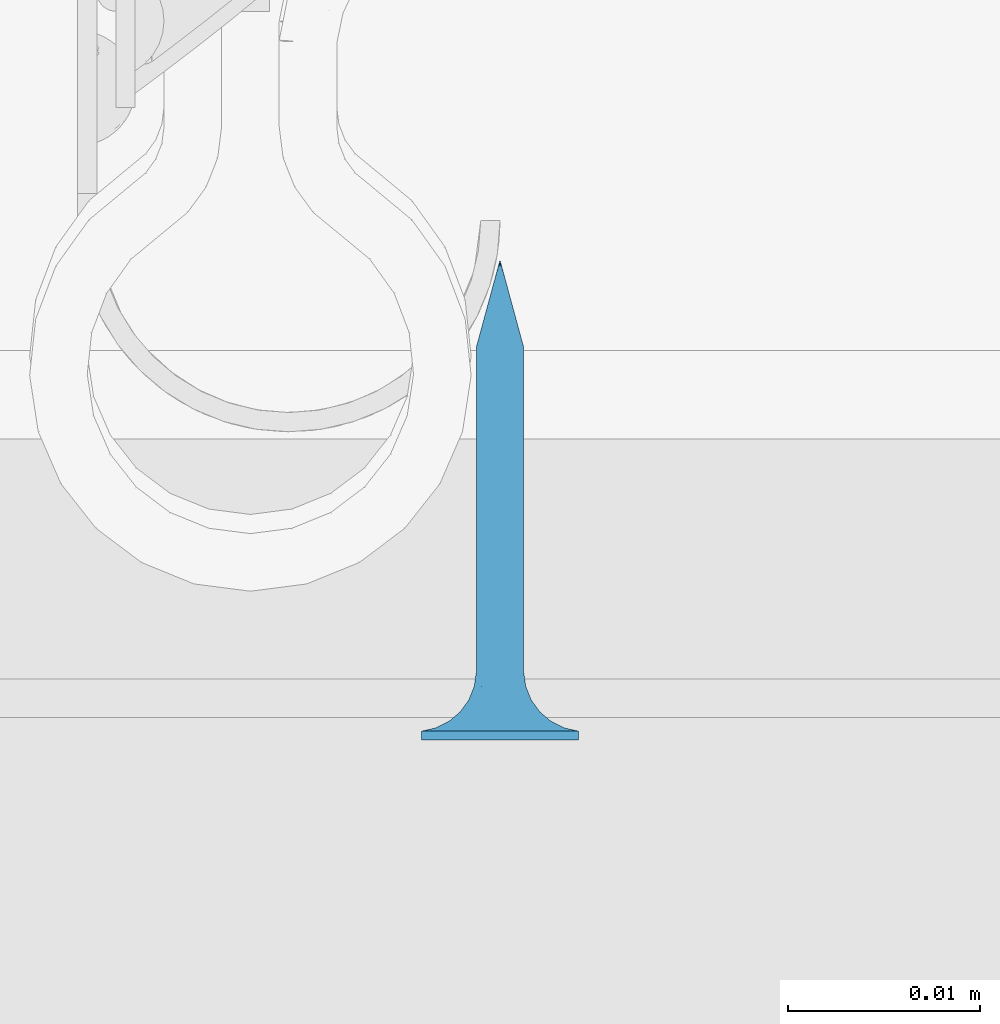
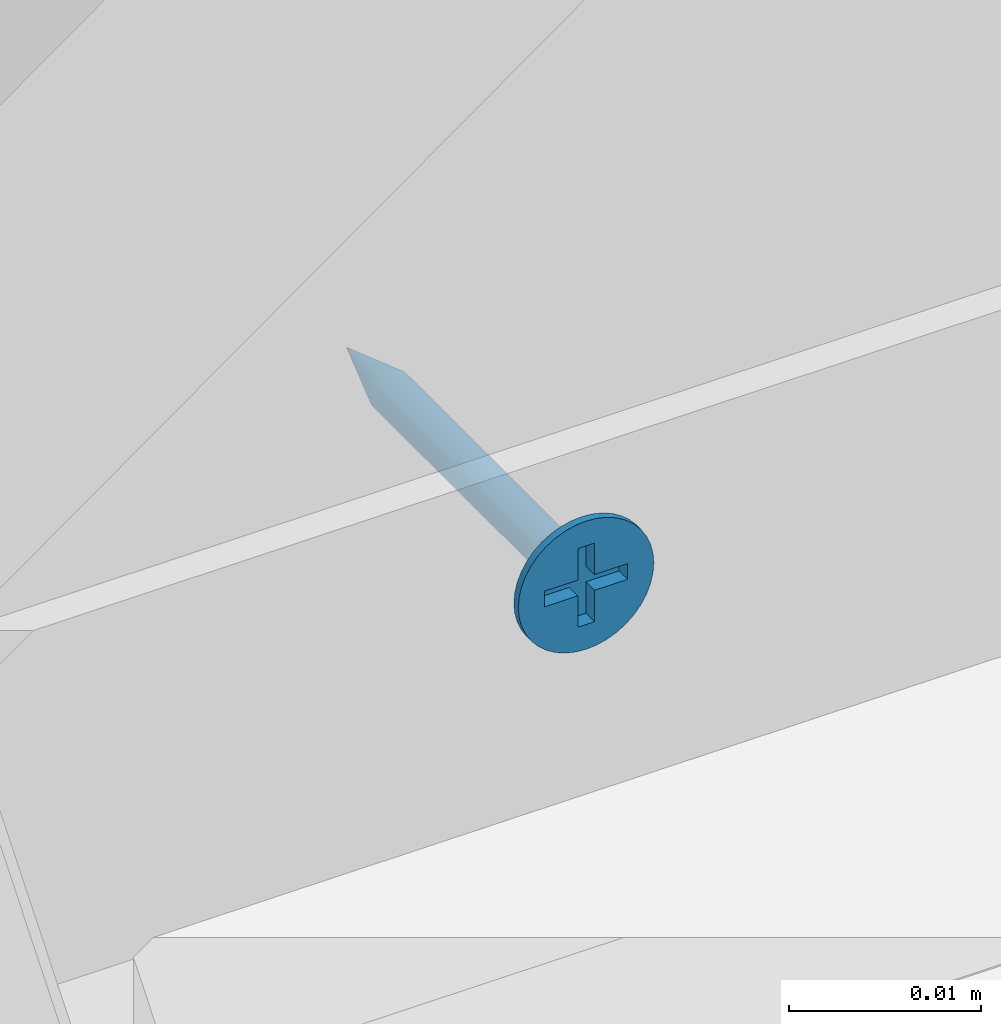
# One storey, part 36 of 79: 1 slab.
"""IFC2X3 building model written with IfcOpenShell, lengths in millimetres."""

from ifc_helpers import new_model, entity, si_unit, converted_unit, direction, frame, origin, origin_with_axes, place, context, project, spatial, faceted_brep, element, save


model = new_model("IFC2X3")

# Units and contexts
model_context = context("Model", 3, precision=1e-05, world=origin(), true_north=direction((0.0, 1.0, 0.0)))
ifc_project = project(units=[si_unit("LENGTHUNIT", "METRE", prefix="MILLI"), si_unit("AREAUNIT", "SQUARE_METRE"), si_unit("VOLUMEUNIT", "CUBIC_METRE"), converted_unit("PLANEANGLEUNIT", "DEGREE", entity("IfcPlaneAngleMeasure", 0.01745), si_unit("PLANEANGLEUNIT", "RADIAN"), dimensions=[0, 0, 0, 0, 0, 0, 0]), si_unit("SOLIDANGLEUNIT", "STERADIAN"), si_unit("MASSUNIT", "GRAM"), si_unit("TIMEUNIT", "SECOND"), si_unit("THERMODYNAMICTEMPERATUREUNIT", "DEGREE_CELSIUS"), si_unit("LUMINOUSINTENSITYUNIT", "LUMEN")], contexts=[model_context])

# Site, building, storey
site_placement = place(None, origin_with_axes())
site = spatial("IfcSite", under=ifc_project, at=site_placement, Name="Default Site", CompositionType="ELEMENT")
building_placement = place(site_placement, origin_with_axes())
building = spatial("IfcBuilding", under=site, at=building_placement, Name="Default Building", CompositionType="ELEMENT")
storey_placement = place(building_placement, origin_with_axes())
storey = spatial("IfcBuildingStorey", under=building, at=storey_placement, Name="Default Building Storey", CompositionType="ELEMENT", Elevation=0.0)

# Slab
slab_placement = place(storey_placement, frame((3330.499834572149, 5017.241866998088, 440.6779499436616), z_axis=(0.0, 0.0, 1.0), x_axis=(1.0, 0.0, 0.0)))
element("IfcSlab", 1, at=slab_placement, inside=storey, Name="Łącznik mechaniczny", context=model_context, shape_type="Brep", body=[
    faceted_brep([(-136.5890362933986, -3387.475459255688, 554.9298199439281), (-136.4636235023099, -3387.475459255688, 555.0766594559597), (-136.4636235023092, -3370.55807436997, 555.0766594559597), (-136.5890362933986, -3370.55807436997, 554.9298199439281), (-136.9005263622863, -3387.475459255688, 554.7035091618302), (-136.9005263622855, -3370.55807436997, 554.7035091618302), (-137.0789337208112, -3370.55807436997, 554.6296104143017), (-137.078933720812, -3387.475459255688, 554.6296104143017), (-137.2667048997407, -3387.475459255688, 554.5845305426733), (-137.2667048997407, -3370.55807436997, 554.5845305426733), (-137.4592163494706, -3370.55807436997, 554.5693795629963), (-137.4592163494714, -3387.475459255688, 554.5693795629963), (-136.4636235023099, -3387.475459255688, 556.5233405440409), (-136.5890362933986, -3387.475459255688, 556.6701800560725), (-136.5890362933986, -3370.55807436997, 556.6701800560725), (-136.4636235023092, -3370.55807436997, 556.5233405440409), (-138.4548091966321, -3370.55807436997, 556.5233405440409), (-138.3293964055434, -3370.55807436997, 556.6701800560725), (-138.3293964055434, -3387.475459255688, 556.6701800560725), (-138.4548091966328, -3387.475459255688, 556.5233405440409), (-136.7358758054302, -3370.55807436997, 554.8044071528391), (-136.7358758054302, -3387.475459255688, 554.8044071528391), (-138.1825568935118, -3387.475459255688, 556.7955928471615), (-138.1825568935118, -3370.55807436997, 556.7955928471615), (-138.0179063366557, -3370.55807436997, 556.8964908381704), (-138.0179063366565, -3387.475459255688, 556.8964908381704), (-136.3627255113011, -3387.475459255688, 556.3586899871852), (-136.3627255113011, -3370.55807436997, 556.3586899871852), (-136.7358758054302, -3387.475459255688, 556.7955928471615), (-136.7358758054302, -3370.55807436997, 556.7955928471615), (-137.6517277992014, -3387.475459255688, 554.5845305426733), (-137.6517277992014, -3370.55807436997, 554.5845305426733), (-137.83949897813, -3370.55807436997, 554.6296104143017), (-137.8394989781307, -3387.475459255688, 554.6296104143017), (-136.3627255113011, -3387.475459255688, 555.241310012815), (-136.3627255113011, -3370.55807436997, 555.241310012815), (-138.0179063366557, -3370.55807436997, 554.7035091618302), (-138.0179063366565, -3387.475459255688, 554.7035091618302), (-138.6746858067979, -3370.55807436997, 555.6074885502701), (-138.6898367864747, -3370.55807436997, 555.8000000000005), (-138.6898367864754, -3387.475459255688, 555.8000000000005), (-138.6746858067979, -3387.475459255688, 555.6074885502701), (-136.2285959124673, -3387.475459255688, 555.8000000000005), (-136.2437468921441, -3387.475459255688, 555.9925114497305), (-136.2437468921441, -3370.55807436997, 555.9925114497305), (-136.2285959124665, -3370.55807436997, 555.8000000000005), (-138.3293964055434, -3370.55807436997, 554.9298199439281), (-138.4548091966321, -3370.55807436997, 555.0766594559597), (-138.4548091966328, -3387.475459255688, 555.0766594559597), (-138.3293964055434, -3387.475459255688, 554.9298199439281), (-137.83949897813, -3370.55807436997, 556.9703895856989), (-137.8394989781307, -3387.475459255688, 556.9703895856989), (-138.1825568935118, -3370.55807436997, 554.8044071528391), (-138.1825568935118, -3387.475459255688, 554.8044071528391), (-138.5557071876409, -3370.55807436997, 555.241310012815), (-138.6296059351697, -3370.55807436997, 555.4197173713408), (-138.6296059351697, -3387.475459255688, 555.4197173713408), (-138.5557071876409, -3387.475459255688, 555.241310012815), (-136.2888267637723, -3387.475459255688, 555.4197173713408), (-136.2437468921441, -3387.475459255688, 555.6074885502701), (-136.2437468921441, -3370.55807436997, 555.6074885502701), (-136.2888267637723, -3370.55807436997, 555.4197173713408), (-136.2888267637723, -3387.475459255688, 556.1802826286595), (-136.2888267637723, -3370.55807436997, 556.1802826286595), (-137.4592163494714, -3387.475459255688, 557.0306204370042), (-137.4592163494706, -3370.55807436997, 557.0306204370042), (-137.2667048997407, -3370.55807436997, 557.0154694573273), (-137.2667048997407, -3387.475459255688, 557.0154694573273), (-137.0789337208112, -3370.55807436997, 556.9703895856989), (-137.078933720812, -3387.475459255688, 556.9703895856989), (-137.6517277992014, -3387.475459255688, 557.0154694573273), (-137.6517277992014, -3370.55807436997, 557.0154694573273), (-136.9005263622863, -3387.475459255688, 556.8964908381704), (-136.9005263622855, -3370.55807436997, 556.8964908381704), (-138.6296059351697, -3370.55807436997, 556.1802826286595), (-138.5557071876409, -3370.55807436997, 556.3586899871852), (-138.5557071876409, -3387.475459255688, 556.3586899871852), (-138.6296059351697, -3387.475459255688, 556.1802826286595), (-138.6746858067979, -3370.55807436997, 555.9925114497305), (-138.6746858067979, -3387.475459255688, 555.9925114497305), (-141.5377463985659, -3390.556721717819, 555.8000000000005), (-141.5377463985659, -3391.020944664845, 555.8000000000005), (-141.4875329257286, -3391.020944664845, 555.1619773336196), (-141.4875329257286, -3390.556721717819, 555.1619773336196), (-141.338128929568, -3391.020944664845, 554.539664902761), (-141.338128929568, -3390.556721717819, 554.539664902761), (-141.0932132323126, -3391.020944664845, 553.948386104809), (-141.0932132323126, -3390.556721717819, 553.948386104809), (-140.7588164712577, -3391.020944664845, 553.4027001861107), (-140.7588164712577, -3390.556721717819, 553.4027001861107), (-140.3431726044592, -3391.020944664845, 552.9160437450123), (-140.4541727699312, -3390.556721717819, 553.0314907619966), (-140.1080097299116, -3390.556721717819, 552.6986614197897), (-139.8565161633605, -3391.020944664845, 552.5003998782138), (-139.7251262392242, -3390.556721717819, 552.4088262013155), (-139.3108302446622, -3391.020944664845, 552.1660031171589), (-139.3108302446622, -3390.556721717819, 552.1660031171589), (-138.8708651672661, -3390.556721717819, 551.9735584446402), (-138.7195514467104, -3391.020944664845, 551.9210874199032), (-138.4113302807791, -3390.556721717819, 551.8341600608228), (-137.9385961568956, -3390.556721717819, 551.7497404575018), (-138.0972390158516, -3391.020944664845, 551.7716834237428), (-137.4592163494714, -3391.020944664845, 551.7214699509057), (-137.4592163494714, -3390.556721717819, 551.7214699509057), (-136.8211936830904, -3391.020944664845, 551.7716834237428), (-136.8211936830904, -3390.556721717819, 551.7716834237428), (-136.1988812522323, -3391.020944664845, 551.9210874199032), (-136.1988812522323, -3390.556721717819, 551.9210874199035), (-135.6076024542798, -3391.020944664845, 552.1660031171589), (-135.6076024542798, -3390.556721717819, 552.1660031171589), (-135.0619165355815, -3391.020944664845, 552.5003998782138), (-135.0619165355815, -3390.556721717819, 552.5003998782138), (-134.5752600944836, -3391.020944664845, 552.9160437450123), (-134.5752600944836, -3390.556721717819, 552.9160437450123), (-134.1596162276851, -3391.020944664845, 553.4027001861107), (-134.1596162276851, -3390.556721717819, 553.4027001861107), (-133.8252194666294, -3391.020944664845, 553.948386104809), (-133.8252194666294, -3390.556721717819, 553.948386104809), (-133.580303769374, -3391.020944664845, 554.539664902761), (-133.580303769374, -3390.556721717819, 554.539664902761), (-133.4308997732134, -3391.020944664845, 556.438022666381), (-133.4308997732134, -3390.556721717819, 556.438022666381), (-133.3806863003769, -3390.556721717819, 555.8000000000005), (-133.3806863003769, -3391.020944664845, 555.8000000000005), (-133.4308997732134, -3390.556721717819, 555.1619773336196), (-133.4308997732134, -3391.020944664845, 555.1619773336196), (-133.580303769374, -3391.020944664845, 557.0603350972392), (-133.580303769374, -3390.556721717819, 557.0603350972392), (-133.8252194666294, -3391.020944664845, 557.6516138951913), (-133.8252194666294, -3390.556721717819, 557.6516138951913), (-134.1596162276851, -3391.020944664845, 558.1972998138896), (-134.1596162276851, -3390.556721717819, 558.1972998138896), (-134.5752600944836, -3391.020944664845, 558.683956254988), (-134.5752600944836, -3390.556721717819, 558.683956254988), (-135.0619165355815, -3391.020944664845, 559.0996001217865), (-135.0619165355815, -3390.556721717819, 559.0996001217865), (-135.6076024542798, -3391.020944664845, 559.4339968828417), (-135.6076024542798, -3390.556721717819, 559.4339968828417), (-136.1988812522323, -3391.020944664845, 559.6789125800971), (-136.1988812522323, -3390.556721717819, 559.6789125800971), (-136.8211936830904, -3391.020944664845, 559.8283165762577), (-136.8211936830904, -3390.556721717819, 559.8283165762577), (-137.4592163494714, -3391.020944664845, 559.8785300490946), (-137.4592163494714, -3390.556721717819, 559.8785300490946), (-138.0972390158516, -3391.020944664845, 559.8283165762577), (-138.0972390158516, -3390.556721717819, 559.8283165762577), (-138.7195514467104, -3391.020944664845, 559.6789125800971), (-138.7195514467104, -3390.556721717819, 559.6789125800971), (-139.3108302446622, -3391.020944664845, 559.4339968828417), (-139.3108302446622, -3390.556721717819, 559.4339968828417), (-139.8565161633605, -3391.020944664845, 559.0996001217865), (-139.8565161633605, -3390.556721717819, 559.0996001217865), (-140.3431726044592, -3391.020944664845, 558.683956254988), (-140.3431726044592, -3390.556721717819, 558.683956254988), (-140.7588164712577, -3391.020944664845, 558.1972998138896), (-140.7588164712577, -3390.556721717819, 558.1972998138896), (-141.0932132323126, -3391.020944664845, 557.6516138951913), (-141.0932132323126, -3390.556721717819, 557.6516138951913), (-141.338128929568, -3391.020944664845, 557.0603350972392), (-141.338128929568, -3390.556721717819, 557.0603350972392), (-141.4875329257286, -3391.020944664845, 556.438022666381), (-141.4875329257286, -3390.556721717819, 556.438022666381), (-137.8060615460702, -3388.229732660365, 554.5055560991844), (-137.4592163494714, -3388.229732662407, 554.4598930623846), (-138.1292698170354, -3388.229732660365, 554.6394333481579), (-138.4068150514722, -3388.229732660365, 554.8524012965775), (-138.6197830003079, -3388.229732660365, 555.1299465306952), (-138.7536602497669, -3388.229732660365, 555.4531548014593), (-138.7993232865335, -3388.229732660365, 555.7999999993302), (-138.7536602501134, -3388.229732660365, 556.1468451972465), (-138.6197830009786, -3388.229732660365, 556.4700534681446), (-138.4068150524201, -3388.229732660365, 556.7475987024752), (-138.1292698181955, -3388.229732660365, 556.9605666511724), (-137.8060615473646, -3388.229732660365, 557.0944439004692), (-137.4592163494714, -3388.229732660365, 557.1401069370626), (-137.1123711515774, -3388.229732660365, 557.0944439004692), (-136.7891628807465, -3388.229732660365, 556.9605666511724), (-136.5116176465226, -3388.229732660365, 556.7475987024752), (-136.2986496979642, -3388.229732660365, 556.4700534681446), (-136.1647724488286, -3388.229732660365, 556.1468451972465), (-136.1191094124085, -3388.229732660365, 555.7999999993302), (-136.1647724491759, -3388.229732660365, 555.4531548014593), (-136.2986496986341, -3388.229732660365, 555.1299465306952), (-136.5116176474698, -3388.229732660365, 554.8524012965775), (-136.7891628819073, -3388.229732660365, 554.6394333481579), (-137.1123711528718, -3388.229732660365, 554.5055560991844), (-137.4592163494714, -3388.936142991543, 554.1737111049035), (-137.8801308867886, -3388.936142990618, 554.2291255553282), (-138.2723607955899, -3388.936142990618, 554.39159250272), (-138.6091762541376, -3388.936142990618, 554.6500400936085), (-138.8676238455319, -3388.936142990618, 554.9868555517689), (-139.0300907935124, -3388.936142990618, 555.3790854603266), (-139.0855052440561, -3388.936142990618, 555.7999999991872), (-139.0300907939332, -3388.936142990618, 556.2209145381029), (-138.8676238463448, -3388.936142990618, 556.6131444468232), (-138.6091762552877, -3388.936142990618, 556.949959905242), (-138.2723607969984, -3388.936142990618, 557.2084074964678), (-137.8801308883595, -3388.936142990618, 557.3708744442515), (-137.4592163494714, -3388.936142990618, 557.4262888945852), (-137.0383018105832, -3388.936142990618, 557.3708744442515), (-136.6460719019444, -3388.936142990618, 557.2084074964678), (-136.3092564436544, -3388.936142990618, 556.949959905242), (-136.0508088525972, -3388.936142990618, 556.6131444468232), (-135.8883419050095, -3388.936142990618, 556.2209145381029), (-135.8329274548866, -3388.936142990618, 555.7999999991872), (-135.8883419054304, -3388.936142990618, 555.3790854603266), (-136.0508088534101, -3388.936142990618, 554.9868555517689), (-136.3092564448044, -3388.936142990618, 554.6500400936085), (-136.6460719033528, -3388.936142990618, 554.39159250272), (-137.0383018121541, -3388.936142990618, 554.2291255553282), (-137.4592163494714, -3389.553938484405, 553.727343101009), (-137.9956594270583, -3389.553938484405, 553.7979671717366), (-138.4955447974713, -3389.553938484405, 554.0050264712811), (-138.9248060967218, -3389.553938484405, 554.3344102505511), (-139.2541898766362, -3389.553938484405, 554.7636715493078), (-139.46124917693, -3389.553938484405, 555.2635569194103), (-139.5318732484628, -3389.553938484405, 555.7999999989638), (-139.4612491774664, -3389.553938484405, 556.3364430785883), (-139.2541898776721, -3389.553938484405, 556.8363284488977), (-138.9248060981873, -3389.553938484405, 557.2655897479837), (-138.495544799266, -3389.553938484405, 557.5949735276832), (-137.9956594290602, -3389.553938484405, 557.8020328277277), (-137.4592163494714, -3389.553938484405, 557.8726568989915), (-136.9227732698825, -3389.553938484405, 557.8020328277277), (-136.422887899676, -3389.553938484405, 557.5949735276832), (-135.9936266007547, -3389.553938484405, 557.2655897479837), (-135.6642428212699, -3389.553938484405, 556.8363284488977), (-135.4571835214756, -3389.553938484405, 556.3364430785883), (-135.3865594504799, -3389.553938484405, 555.7999999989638), (-135.457183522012, -3389.553938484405, 555.2635569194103), (-135.6642428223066, -3389.553938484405, 554.7636715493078), (-135.9936266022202, -3389.553938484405, 554.3344102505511), (-136.4228879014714, -3389.553938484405, 554.0050264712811), (-136.9227732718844, -3389.553938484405, 553.7979671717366), (-137.4592163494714, -3390.04747944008, 553.1465393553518), (-138.1459824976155, -3390.047479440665, 553.2369538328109), (-138.7859466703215, -3390.047479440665, 553.5020356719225), (-139.3354963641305, -3390.047479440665, 553.9237199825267), (-139.757180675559, -3390.047479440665, 554.4732696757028), (-140.0222625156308, -3390.047479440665, 555.1132338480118), (-140.1126769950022, -3390.047479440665, 555.7999999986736), (-140.0222625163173, -3390.047479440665, 556.4867661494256), (-139.7571806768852, -3390.047479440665, 557.1267303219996), (-139.3354963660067, -3390.047479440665, 557.6762800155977), (-138.7859466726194, -3390.047479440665, 558.0979643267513), (-138.1459825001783, -3390.047479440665, 558.3630461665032), (-137.4592163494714, -3390.047479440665, 558.4534606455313), (-136.7724501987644, -3390.047479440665, 558.3630461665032), (-136.1324860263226, -3390.047479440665, 558.0979643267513), (-135.5829363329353, -3390.047479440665, 557.6762800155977), (-135.1612520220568, -3390.047479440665, 557.1267303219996), (-134.8961701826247, -3390.047479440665, 556.4867661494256), (-134.8057557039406, -3390.047479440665, 555.7999999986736), (-134.8961701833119, -3390.047479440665, 555.1132338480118), (-135.1612520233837, -3390.047479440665, 554.4732696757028), (-135.5829363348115, -3390.047479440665, 553.9237199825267), (-136.1324860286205, -3390.047479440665, 553.5020356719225), (-136.7724502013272, -3390.047479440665, 553.2369538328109), (-137.4592163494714, -3390.388294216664, 552.4648055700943), (-138.3224281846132, -3390.388294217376, 552.5784495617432), (-139.1268135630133, -3390.388294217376, 552.9116368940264), (-139.8175549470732, -3390.388294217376, 553.4416613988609), (-140.3475794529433, -3390.388294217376, 554.1324027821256), (-140.6807667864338, -3390.388294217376, 554.9367881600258), (-140.7944107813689, -3390.388294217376, 555.7999999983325), (-140.6807667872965, -3390.388294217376, 556.6632118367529), (-140.3475794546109, -3390.388294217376, 557.4675972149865), (-139.8175549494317, -3390.388294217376, 558.1583385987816), (-139.1268135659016, -3390.388294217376, 558.6883631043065), (-138.3224281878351, -3390.388294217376, 559.0215504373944), (-137.4592163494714, -3390.388294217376, 559.1351944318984), (-136.5960045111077, -3390.388294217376, 559.0215504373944), (-135.7916191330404, -3390.388294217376, 558.6883631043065), (-135.1008777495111, -3390.388294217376, 558.1583385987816), (-134.5708532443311, -3390.388294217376, 557.4675972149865), (-134.2376659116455, -3390.388294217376, 556.6632118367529), (-134.1240219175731, -3390.388294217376, 555.7999999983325), (-134.2376659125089, -3390.388294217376, 554.9367881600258), (-134.5708532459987, -3390.388294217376, 554.1324027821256), (-135.1008777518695, -3390.388294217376, 553.4416613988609), (-135.7916191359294, -3390.388294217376, 552.9116368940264), (-136.5960045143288, -3390.388294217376, 552.5784495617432), (-137.4592163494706, -3366.021033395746, 555.8000000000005), (-139.9592163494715, -3391.020944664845, 556.3000000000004), (-137.9592163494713, -3391.020944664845, 556.3000000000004), (-139.9592163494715, -3391.020944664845, 555.3000000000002), (-137.9592163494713, -3391.020944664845, 555.3000000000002), (-137.9592163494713, -3391.020944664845, 553.3000000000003), (-136.9592163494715, -3391.020944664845, 553.3000000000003), (-136.9592163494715, -3391.020944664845, 555.3000000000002), (-134.9592163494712, -3391.020944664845, 555.3000000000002), (-134.9592163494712, -3391.020944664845, 556.3000000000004), (-136.9592163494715, -3391.020944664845, 556.3000000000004), (-136.9592163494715, -3391.020944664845, 558.3000000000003), (-137.9592163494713, -3391.020944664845, 558.3000000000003), (-136.9592163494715, -3390.128974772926, 556.3000000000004), (-134.9592163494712, -3390.128974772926, 556.3000000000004), (-134.9592163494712, -3390.128974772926, 555.3000000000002), (-136.9592163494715, -3390.128974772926, 555.3000000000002), (-136.9592163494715, -3390.128974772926, 553.3000000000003), (-137.9592163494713, -3390.128974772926, 553.3000000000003), (-137.9592163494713, -3390.128974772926, 555.3000000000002), (-139.9592163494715, -3390.128974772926, 555.3000000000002), (-139.9592163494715, -3390.128974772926, 556.3000000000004), (-137.9592163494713, -3390.128974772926, 556.3000000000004), (-137.9592163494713, -3390.128974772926, 558.3000000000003), (-136.9592163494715, -3390.128974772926, 558.3000000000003)], [[[0, 1, 2, 3]], [[4, 5, 6, 7]], [[8, 9, 10, 11]], [[12, 13, 14, 15]], [[16, 17, 18, 19]], [[0, 3, 20, 21]], [[22, 23, 24, 25]], [[26, 12, 15, 27]], [[28, 29, 14, 13]], [[30, 31, 32, 33]], [[1, 34, 35, 2]], [[18, 17, 23, 22]], [[7, 6, 9, 8]], [[33, 32, 36, 37]], [[38, 39, 40, 41]], [[42, 43, 44, 45]], [[46, 47, 48, 49]], [[25, 24, 50, 51]], [[37, 36, 52, 53]], [[54, 55, 56, 57]], [[53, 52, 46, 49]], [[47, 54, 57, 48]], [[58, 59, 60, 61]], [[59, 42, 45, 60]], [[43, 62, 63, 44]], [[64, 65, 66, 67]], [[67, 66, 68, 69]], [[55, 38, 41, 56]], [[70, 71, 65, 64]], [[72, 73, 29, 28]], [[74, 75, 76, 77]], [[69, 68, 73, 72]], [[39, 78, 79, 40]], [[75, 16, 19, 76]], [[62, 26, 27, 63]], [[11, 10, 31, 30]], [[21, 20, 5, 4]], [[34, 58, 61, 35]], [[51, 50, 71, 70]], [[78, 74, 77, 79]], [[80, 81, 82, 83]], [[84, 85, 83, 82]], [[86, 87, 85, 84]], [[87, 86, 88, 89]], [[88, 90, 89]], [[90, 91, 89]], [[92, 91, 93]], [[91, 90, 93]], [[93, 94, 92]], [[93, 95, 94]], [[95, 96, 94]], [[97, 96, 98]], [[96, 95, 98]], [[98, 99, 97]], [[100, 99, 101]], [[99, 98, 101]], [[101, 102, 100]], [[102, 103, 100]], [[103, 102, 104, 105]], [[106, 107, 105, 104]], [[108, 109, 107, 106]], [[109, 108, 110, 111]], [[112, 113, 111, 110]], [[113, 112, 114, 115]], [[116, 117, 115, 114]], [[118, 119, 117, 116]], [[120, 121, 122, 123]], [[123, 122, 124, 125]], [[119, 118, 125, 124]], [[126, 127, 121, 120]], [[128, 129, 127, 126]], [[129, 128, 130, 131]], [[132, 133, 131, 130]], [[133, 132, 134, 135]], [[136, 137, 135, 134]], [[138, 139, 137, 136]], [[139, 138, 140, 141]], [[142, 143, 141, 140]], [[143, 142, 144, 145]], [[146, 147, 145, 144]], [[148, 149, 147, 146]], [[149, 148, 150, 151]], [[152, 153, 151, 150]], [[153, 152, 154, 155]], [[156, 157, 155, 154]], [[158, 159, 157, 156]], [[159, 158, 160, 161]], [[81, 80, 161, 160]], [[162, 11, 30]], [[162, 163, 11]], [[30, 33, 162]], [[162, 33, 164]], [[37, 164, 33]], [[164, 37, 53]], [[53, 165, 164]], [[53, 49, 165]], [[166, 49, 48]], [[166, 165, 49]], [[48, 57, 166]], [[166, 57, 167]], [[56, 167, 57]], [[167, 56, 41]], [[41, 168, 167]], [[41, 40, 168]], [[169, 40, 79]], [[169, 168, 40]], [[79, 77, 169]], [[169, 77, 170]], [[76, 170, 77]], [[170, 76, 19]], [[19, 171, 170]], [[19, 18, 171]], [[172, 18, 22]], [[172, 171, 18]], [[22, 25, 172]], [[172, 25, 173]], [[51, 173, 25]], [[173, 51, 70]], [[70, 174, 173]], [[70, 64, 174]], [[175, 64, 67]], [[175, 174, 64]], [[67, 69, 175]], [[175, 69, 176]], [[72, 176, 69]], [[176, 72, 28]], [[28, 177, 176]], [[28, 13, 177]], [[178, 13, 12]], [[178, 177, 13]], [[12, 26, 178]], [[178, 26, 179]], [[62, 179, 26]], [[179, 62, 43]], [[43, 180, 179]], [[43, 42, 180]], [[181, 42, 59]], [[181, 180, 42]], [[59, 58, 181]], [[181, 58, 182]], [[34, 182, 58]], [[182, 34, 1]], [[1, 183, 182]], [[1, 0, 183]], [[184, 0, 21]], [[184, 183, 0]], [[21, 4, 184]], [[184, 4, 185]], [[7, 185, 4]], [[185, 7, 8]], [[8, 163, 185]], [[8, 11, 163]], [[186, 163, 187]], [[162, 187, 163]], [[164, 188, 187, 162]], [[165, 189, 188, 164]], [[166, 190, 189, 165]], [[167, 191, 190, 166]], [[168, 192, 191, 167]], [[169, 193, 192, 168]], [[170, 194, 193, 169]], [[171, 195, 194, 170]], [[172, 196, 195, 171]], [[173, 197, 196, 172]], [[174, 198, 197, 173]], [[175, 199, 198, 174]], [[176, 200, 199, 175]], [[177, 201, 200, 176]], [[178, 202, 201, 177]], [[179, 203, 202, 178]], [[180, 204, 203, 179]], [[181, 205, 204, 180]], [[182, 206, 205, 181]], [[183, 207, 206, 182]], [[184, 208, 207, 183]], [[185, 209, 208, 184]], [[185, 163, 209]], [[186, 209, 163]], [[210, 186, 211]], [[187, 211, 186]], [[188, 212, 211, 187]], [[189, 213, 212, 188]], [[190, 214, 213, 189]], [[191, 215, 214, 190]], [[192, 216, 215, 191]], [[193, 217, 216, 192]], [[194, 218, 217, 193]], [[195, 219, 218, 194]], [[196, 220, 219, 195]], [[197, 221, 220, 196]], [[198, 222, 221, 197]], [[199, 223, 222, 198]], [[200, 224, 223, 199]], [[201, 225, 224, 200]], [[202, 226, 225, 201]], [[203, 227, 226, 202]], [[204, 228, 227, 203]], [[205, 229, 228, 204]], [[206, 230, 229, 205]], [[207, 231, 230, 206]], [[208, 232, 231, 207]], [[209, 233, 232, 208]], [[209, 186, 233]], [[210, 233, 186]], [[234, 210, 235]], [[211, 235, 210]], [[212, 236, 235, 211]], [[213, 237, 236, 212]], [[214, 238, 237, 213]], [[215, 239, 238, 214]], [[216, 240, 239, 215]], [[217, 241, 240, 216]], [[218, 242, 241, 217]], [[219, 243, 242, 218]], [[220, 244, 243, 219]], [[221, 245, 244, 220]], [[222, 246, 245, 221]], [[223, 247, 246, 222]], [[224, 248, 247, 223]], [[225, 249, 248, 224]], [[226, 250, 249, 225]], [[227, 251, 250, 226]], [[228, 252, 251, 227]], [[229, 253, 252, 228]], [[230, 254, 253, 229]], [[231, 255, 254, 230]], [[232, 256, 255, 231]], [[233, 257, 256, 232]], [[233, 210, 257]], [[234, 257, 210]], [[258, 99, 100]], [[258, 259, 99]], [[100, 103, 258]], [[258, 234, 259]], [[235, 259, 234]], [[259, 96, 97]], [[259, 260, 96]], [[97, 99, 259]], [[236, 260, 259, 235]], [[261, 91, 92]], [[260, 92, 94]], [[260, 261, 92]], [[94, 96, 260]], [[237, 261, 260, 236]], [[262, 87, 89]], [[89, 261, 262]], [[89, 91, 261]], [[238, 262, 261, 237]], [[85, 87, 263]], [[262, 263, 87]], [[239, 263, 262, 238]], [[263, 80, 83]], [[263, 264, 80]], [[83, 85, 263]], [[240, 264, 263, 239]], [[265, 159, 161]], [[161, 264, 265]], [[161, 80, 264]], [[241, 265, 264, 240]], [[265, 266, 157, 159]], [[242, 266, 265, 241]], [[266, 153, 155]], [[266, 267, 153]], [[155, 157, 266]], [[243, 267, 266, 242]], [[268, 149, 151]], [[151, 267, 268]], [[151, 153, 267]], [[244, 268, 267, 243]], [[268, 269, 147, 149]], [[245, 269, 268, 244]], [[269, 143, 145]], [[269, 270, 143]], [[145, 147, 269]], [[246, 270, 269, 245]], [[271, 139, 141]], [[141, 270, 271]], [[141, 143, 270]], [[247, 271, 270, 246]], [[271, 272, 137, 139]], [[248, 272, 271, 247]], [[272, 133, 135]], [[272, 273, 133]], [[135, 137, 272]], [[249, 273, 272, 248]], [[274, 129, 131]], [[131, 273, 274]], [[131, 133, 273]], [[250, 274, 273, 249]], [[274, 275, 127, 129]], [[251, 275, 274, 250]], [[275, 122, 121]], [[275, 276, 122]], [[121, 127, 275]], [[252, 276, 275, 251]], [[277, 119, 124]], [[124, 276, 277]], [[124, 122, 276]], [[253, 277, 276, 252]], [[117, 119, 278]], [[277, 278, 119]], [[254, 278, 277, 253]], [[278, 113, 115]], [[278, 279, 113]], [[115, 117, 278]], [[255, 279, 278, 254]], [[280, 109, 111]], [[111, 279, 280]], [[111, 113, 279]], [[256, 280, 279, 255]], [[107, 109, 281]], [[280, 281, 109]], [[257, 281, 280, 256]], [[257, 234, 281]], [[258, 281, 234]], [[281, 103, 105]], [[281, 258, 103]], [[105, 107, 281]], [[38, 55, 282]], [[282, 39, 38]], [[55, 54, 282]], [[47, 46, 282]], [[282, 54, 47]], [[52, 36, 282]], [[282, 46, 52]], [[36, 32, 282]], [[31, 10, 282]], [[282, 32, 31]], [[9, 6, 282]], [[282, 10, 9]], [[6, 5, 282]], [[20, 3, 282]], [[282, 5, 20]], [[2, 35, 282]], [[282, 3, 2]], [[35, 61, 282]], [[60, 45, 282]], [[282, 61, 60]], [[44, 63, 282]], [[282, 45, 44]], [[63, 27, 282]], [[15, 14, 282]], [[282, 27, 15]], [[29, 73, 282]], [[282, 14, 29]], [[73, 68, 282]], [[66, 65, 282]], [[282, 68, 66]], [[71, 50, 282]], [[282, 65, 71]], [[50, 24, 282]], [[23, 17, 282]], [[282, 24, 23]], [[16, 75, 282]], [[282, 17, 16]], [[75, 74, 282]], [[78, 39, 282]], [[282, 74, 78]], [[283, 156, 154, 284]], [[283, 285, 286, 287, 288, 289, 290, 291, 292, 293, 294, 284, 154, 152, 150, 148, 146, 144, 142, 140, 138, 136, 134, 132, 130, 128, 126, 120, 123, 125, 118, 116, 114, 112, 110, 108, 106, 104, 102, 101, 98, 95, 93, 90, 88, 86, 84, 82, 81, 160, 158, 156]], [[295, 296, 297, 298, 299, 300, 301, 302, 303, 304, 305, 306]], [[297, 290, 289, 298]], [[296, 291, 290, 297]], [[295, 292, 291, 296]], [[306, 293, 292, 295]], [[305, 294, 293, 306]], [[304, 284, 294, 305]], [[303, 283, 284, 304]], [[302, 285, 283, 303]], [[301, 286, 285, 302]], [[300, 287, 286, 301]], [[299, 288, 287, 300]], [[298, 289, 288, 299]]]),
])

save(model, "model.ifc")
